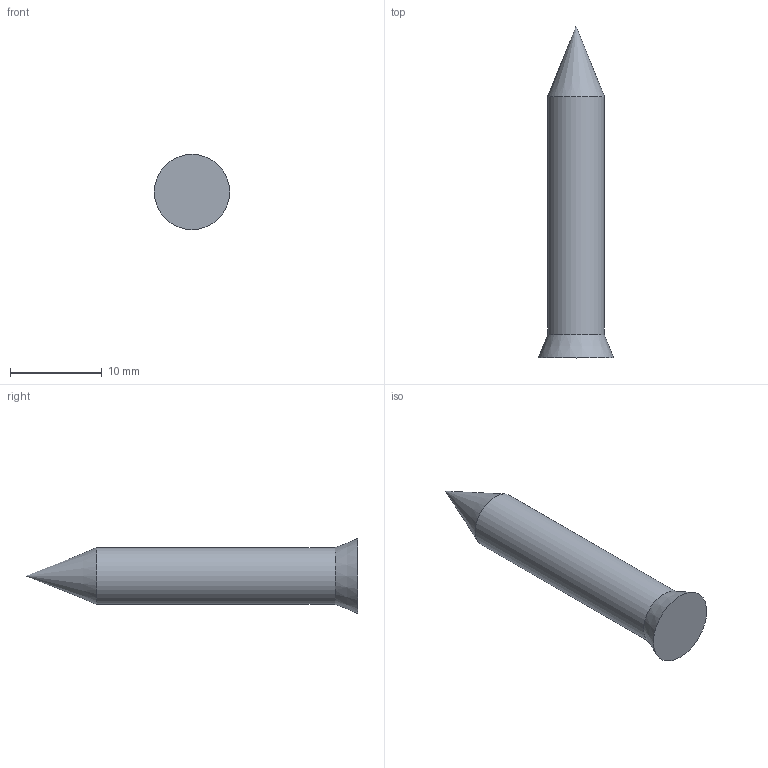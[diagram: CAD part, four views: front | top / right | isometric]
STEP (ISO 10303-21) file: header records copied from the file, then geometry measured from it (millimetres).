
FILE_DESCRIPTION(/* description */ ('Alibre Inc.'),/* implementation_level */ '2;1');
FILE_NAME(/* name */ 'export0',/* time_stamp */ '2013-07-17T09:38:38-06:00',/* author */ (''),/* organization */ (''),/* preprocessor_version */ 'ST-DEVELOPER v14',/* originating_system */ 'Alibre',/* authorisation */ '');
FILE_SCHEMA (('ALIBRE_SCHEMA','CONFIG_CONTROL_DESIGN'));
Length unit declared in the file: centimetre
Products named in the file (1): ID_1
Bounding box: 8.2 x 36.2 x 8.2 mm (x, y, z)
Volume: 964.9 mm3; surface area: 701 mm2
Topology: 1 solids, 1 shells, 4 faces, 7 edges, 4 vertices
Faces by surface type: cone 2, plane 1, cylinder 1
Full cylindrical faces by diameter (mm): 6.2 x1
Entity records: 646 total; most frequent: CARTESIAN_POINT 53, DIRECTION 41, CONSTRAINTPAIRUV 35, INTEGERVALUEPAIR 33, REFERENCEDEPENDENTUV 30, REALVALUEPAIR 24, ENTITYHEADERPROPERTIES 21, VECTOR 21
